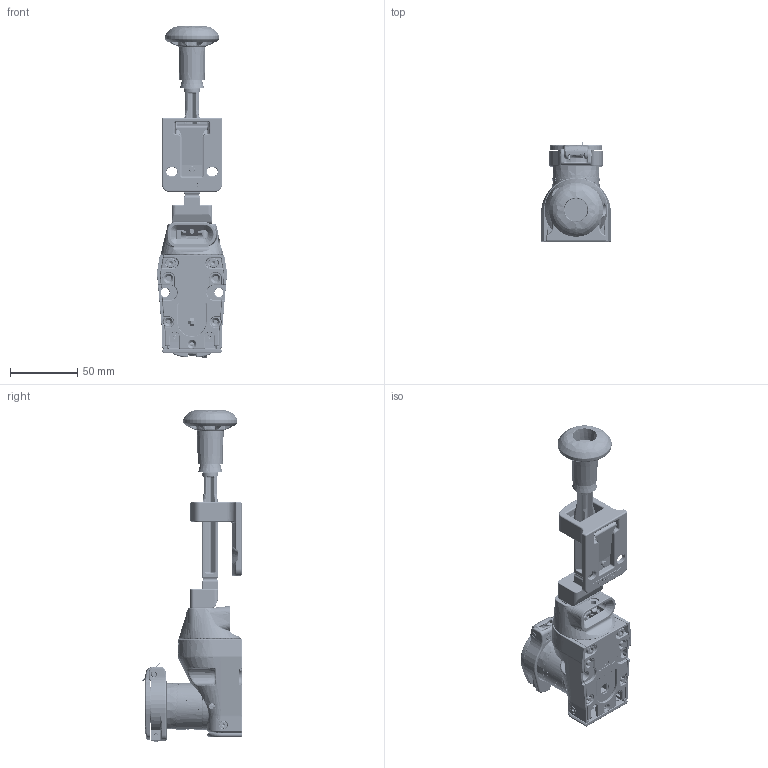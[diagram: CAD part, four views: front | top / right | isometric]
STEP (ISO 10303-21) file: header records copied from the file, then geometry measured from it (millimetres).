
FILE_DESCRIPTION((''),'2;1');
FILE_NAME('DM1-0-1-CLIS-A-TE_ASM','2021-02-05T09:33:25',('ahorseman'),(''),'CREO PARAMETRIC BY PTC INC, 2019471','CREO PARAMETRIC BY PTC INC, 2019471','');
FILE_SCHEMA(('CONFIG_CONTROL_DESIGN'));
Products named in the file (43): F40743_DM_BASE; F40746_DM_BELLMOUTH; F55660_DM_BELLMOUTH_PIN; F65117_DM_PINION_SPRING; F49417_LEFT_HAND_DM_PINION; F49418_RIGHT_HAND_DM_PINION; F45077_DM_LOCKING_PLUNGER_AF2; S910084_DM_BELLMOUTH_ASSEY_AF41_ASM; DM_LOCKING_PLATE_BENT; F40742_MAZAK_DM_BODY; F41538_3_SQR_SPINDLE_CAST; F52616_90_STOP_PLATE; F40707_STD_CL_MIDDLE_CASE; 1-8X8_TENSION_PIN; F71728_LOCK_LABEL_ROLLED; DM-CL_MODULE_0_DEG_ASM; S910049_CL_LOCK_BARREL_ASM; F65113_WAVE_WASHER; F40706_CL_FRONT_CASE; M4X25_CAP_HEAD; F48043_DM_BELLMOUTH_PLUG; M4X8_POZI_DRIVE_PANHEAD; F49416_BI-DIRECTIONAL_DM_CAM; F52662_DM_BASE_COVER; F40767_DMS_XMS_REAR_COVER_CAST_; M3X8_CAP_HEAD; DM1_CLIN_0_DEG_HEAD_ASM; F46325_DM_HAND_ACT_BRACKET; F65119_DM_LEAF_SPRING_DEFLECTED; F46323_DM_HAND_OP_ACTUATOR; F50278_CAST_SLIDE_BAR__STANDARD; M8_LIGHT_WASHER; M6_LIGHT_WASHER; DM_2ND_ACTUATOR_270_ASM; F72231_CL_DUST_COVER_SEAL_INJ; STANDARD_DUSTCOVER_CLAMP_AF46; F48081_DUSTCOVER_CAP_CW_MAGNET_AF0; CLAMP_DUSTCOVER_HINGE_PIN; CLAMP_STYLE_DUSTCOVER_SPRING_AF2; M4X12_CAP_HEAD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
Assembly tree (49 placements, depth 5):
  DM1-0-1-CLIS-A-TE_ASM
    DM1_CLIN_0_DEG_HEAD_ASM
      DM-CL_MODULE_0_DEG_ASM
        F40743_DM_BASE
        S910084_DM_BELLMOUTH_ASSEY_AF41_ASM
          F40746_DM_BELLMOUTH
          F55660_DM_BELLMOUTH_PIN
          F65117_DM_PINION_SPRING
          F49417_LEFT_HAND_DM_PINION
          F49418_RIGHT_HAND_DM_PINION
          F45077_DM_LOCKING_PLUNGER_AF2
        DM_LOCKING_PLATE_BENT
        F40742_MAZAK_DM_BODY
        F41538_3_SQR_SPINDLE_CAST
        F52616_90_STOP_PLATE
        F40707_STD_CL_MIDDLE_CASE
        1-8X8_TENSION_PIN  x2
        F71728_LOCK_LABEL_ROLLED
      S910049_CL_LOCK_BARREL_ASM
      F65113_WAVE_WASHER
      F40706_CL_FRONT_CASE
      1-8X8_TENSION_PIN  x4
      M4X25_CAP_HEAD  x2
      F48043_DM_BELLMOUTH_PLUG
      M4X8_POZI_DRIVE_PANHEAD
      F49416_BI-DIRECTIONAL_DM_CAM
      F52662_DM_BASE_COVER
      F40767_DMS_XMS_REAR_COVER_CAST_
      M3X8_CAP_HEAD  x2
    DM_2ND_ACTUATOR_270_ASM
      F46325_DM_HAND_ACT_BRACKET
      F65119_DM_LEAF_SPRING_DEFLECTED
      F46323_DM_HAND_OP_ACTUATOR
      F50278_CAST_SLIDE_BAR__STANDARD
      M8_LIGHT_WASHER
      M6_LIGHT_WASHER
    CLDC_STANDARD_DUSTCOVER_ASM
      F72231_CL_DUST_COVER_SEAL_INJ
      CLDC-X009-MAGNETIC-CAP_ASM
        STANDARD_DUSTCOVER_CLAMP_AF46
        F48081_DUSTCOVER_CAP_CW_MAGNET_AF0
        CLAMP_DUSTCOVER_HINGE_PIN
        CLAMP_STYLE_DUSTCOVER_SPRING_AF2
        M4X12_CAP_HEAD
Bounding box: 52.27 x 73.93 x 247.26 mm (x, y, z)
Volume: 167886 mm3; surface area: 127690.8 mm2
Topology: 42 solids, 61 shells, 10207 faces, 24221 edges, 14281 vertices
Faces by surface type: bspline 2829, cylinder 2598, plane 2224, torus 1185, extrusion 584, sphere 543, cone 244
Entity records: 406272 total; most frequent: CARTESIAN_POINT 191353, ORIENTED_EDGE 47878, DIRECTION 39790, EDGE_CURVE 23966, AXIS2_PLACEMENT_3D 15261, VERTEX_POINT 14151, EDGE_LOOP 10498, FACE_OUTER_BOUND 10111
